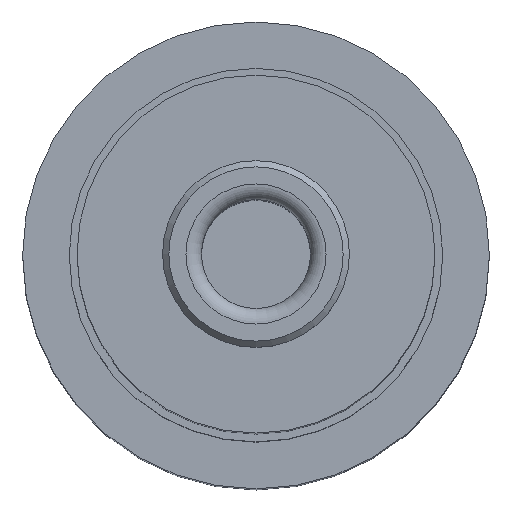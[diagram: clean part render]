
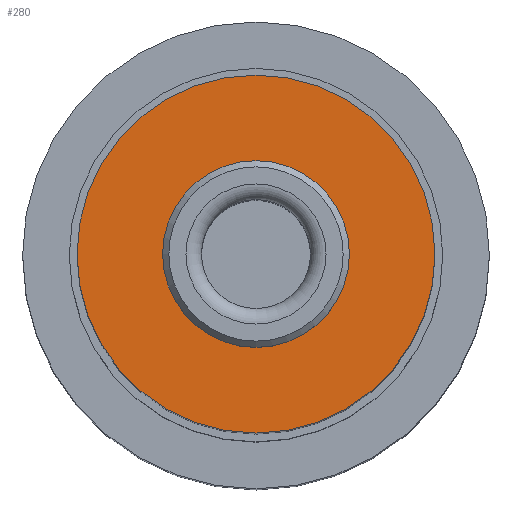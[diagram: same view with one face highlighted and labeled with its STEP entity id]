
A CAD part, top view. The second image highlights one B-rep face of the part: STEP entity #280.
In plain terms, the highlighted planar face has unit normal (0, 0, 1).
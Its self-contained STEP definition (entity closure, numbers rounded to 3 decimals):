
#56=FACE_BOUND('',#92,.T.);
#67=FACE_OUTER_BOUND('',#91,.T.);
#91=EDGE_LOOP('',(#205));
#92=EDGE_LOOP('',(#206));
#122=CIRCLE('',#330,5.75);
#123=CIRCLE('',#331,3.);
#145=VERTEX_POINT('',#486);
#146=VERTEX_POINT('',#488);
#168=EDGE_CURVE('',#145,#145,#122,.T.);
#169=EDGE_CURVE('',#146,#146,#123,.T.);
#205=ORIENTED_EDGE('',*,*,#168,.T.);
#206=ORIENTED_EDGE('',*,*,#169,.F.);
#268=PLANE('',#329);
#280=ADVANCED_FACE('',(#67,#56),#268,.T.);
#329=AXIS2_PLACEMENT_3D('',#485,#384,#385);
#330=AXIS2_PLACEMENT_3D('',#487,#386,#387);
#331=AXIS2_PLACEMENT_3D('',#489,#388,#389);
#384=DIRECTION('center_axis',(0.,0.,1.));
#385=DIRECTION('ref_axis',(1.,0.,0.));
#386=DIRECTION('center_axis',(0.,0.,1.));
#387=DIRECTION('ref_axis',(1.,0.,0.));
#388=DIRECTION('center_axis',(0.,0.,1.));
#389=DIRECTION('ref_axis',(1.,0.,0.));
#485=CARTESIAN_POINT('Origin',(0.,0.,0.));
#486=CARTESIAN_POINT('',(-5.75,0.,0.));
#487=CARTESIAN_POINT('Origin',(0.,0.,0.));
#488=CARTESIAN_POINT('',(3.,0.,0.));
#489=CARTESIAN_POINT('Origin',(0.,0.,0.));
